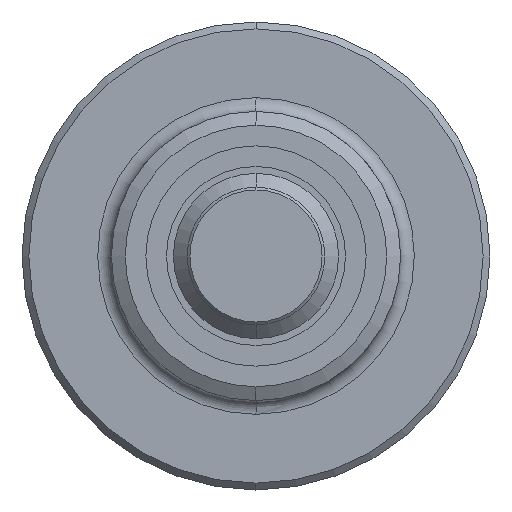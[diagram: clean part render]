
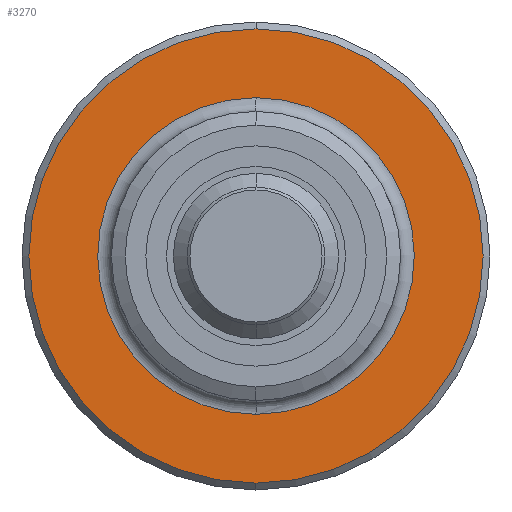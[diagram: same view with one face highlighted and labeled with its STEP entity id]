
A CAD part, left-side view. The second image highlights one B-rep face of the part: STEP entity #3270.
In plain terms, the highlighted planar face has unit normal (-1, 0, 0).
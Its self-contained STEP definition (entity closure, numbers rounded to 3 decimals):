
#534=CARTESIAN_POINT('',(-4.,0.,
0.));
#535=DIRECTION('',(1.,0.,0.));
#536=DIRECTION('',(0.,0.,1.));
#537=AXIS2_PLACEMENT_3D('',#534,#535,#536);
#542=CARTESIAN_POINT('',(-4.,0.,
0.));
#543=DIRECTION('',(1.,0.,0.));
#544=DIRECTION('',(0.,0.,-1.));
#545=AXIS2_PLACEMENT_3D('',#542,#543,#544);
#550=CARTESIAN_POINT('',(-4.,0.,0.));
#551=DIRECTION('',(-1.,0.,0.));
#552=DIRECTION('',(0.,0.01,1.));
#553=AXIS2_PLACEMENT_3D('',#550,#551,#552);
#558=CARTESIAN_POINT('',(-4.,0.,0.));
#559=DIRECTION('',(-1.,0.,0.));
#560=DIRECTION('',(0.,-0.01,-1.));
#561=AXIS2_PLACEMENT_3D('',#558,#559,#560);
#597=CARTESIAN_POINT('',(-4.,0.,0.));
#598=DIRECTION('',(1.,0.,0.));
#599=DIRECTION('',(0.,0.01,1.));
#600=AXIS2_PLACEMENT_3D('',#597,#598,#599);
#643=CARTESIAN_POINT('',(-4.,0.,0.));
#644=DIRECTION('',(1.,0.,0.));
#645=DIRECTION('',(0.,-0.01,-1.));
#646=AXIS2_PLACEMENT_3D('',#643,#644,#645);
#2681=CARTESIAN_POINT('',(-4.,0.,
-16.5));
#2682=CARTESIAN_POINT('',(-4.,0.,
16.5));
#2683=VERTEX_POINT('',#2681);
#2684=VERTEX_POINT('',#2682);
#2685=CARTESIAN_POINT('',(-4.,0.112,11.499));
#2686=CARTESIAN_POINT('',(-4.,0.002,-11.5));
#2687=VERTEX_POINT('',#2685);
#2688=VERTEX_POINT('',#2686);
#2689=CARTESIAN_POINT('',(-4.,-0.002,11.5));
#2690=VERTEX_POINT('',#2689);
#2691=CARTESIAN_POINT('',(-4.,-0.112,-11.499));
#2692=VERTEX_POINT('',#2691);
#3250=CARTESIAN_POINT('',(-4.,0.,0.));
#3251=DIRECTION('',(1.,0.,0.));
#3252=DIRECTION('',(0.,0.,1.));
#3253=AXIS2_PLACEMENT_3D('',#3250,#3251,#3252);
#3254=PLANE('',#3253);
#3256=ORIENTED_EDGE('',*,*,#3255,.T.);
#3257=ORIENTED_EDGE('',*,*,#3240,.T.);
#3258=EDGE_LOOP('',(#3256,#3257));
#3259=FACE_OUTER_BOUND('',#3258,.F.);
#3261=ORIENTED_EDGE('',*,*,#3260,.F.);
#3263=ORIENTED_EDGE('',*,*,#3262,.T.);
#3265=ORIENTED_EDGE('',*,*,#3264,.F.);
#3267=ORIENTED_EDGE('',*,*,#3266,.T.);
#3268=EDGE_LOOP('',(#3261,#3263,#3265,#3267));
#3269=FACE_BOUND('',#3268,.F.);
#538=CIRCLE('',#537,16.5);
#546=CIRCLE('',#545,16.5);
#554=CIRCLE('',#553,11.5);
#562=CIRCLE('',#561,11.5);
#601=CIRCLE('',#600,11.5);
#647=CIRCLE('',#646,11.5);
#3240=EDGE_CURVE('',#2683,#2684,#546,.T.);
#3255=EDGE_CURVE('',#2684,#2683,#538,.T.);
#3260=EDGE_CURVE('',#2687,#2690,#601,.T.);
#3262=EDGE_CURVE('',#2687,#2688,#554,.T.);
#3264=EDGE_CURVE('',#2692,#2688,#647,.T.);
#3266=EDGE_CURVE('',#2692,#2690,#562,.T.);
#3270=ADVANCED_FACE('',(#3259,#3269),#3254,.F.);
